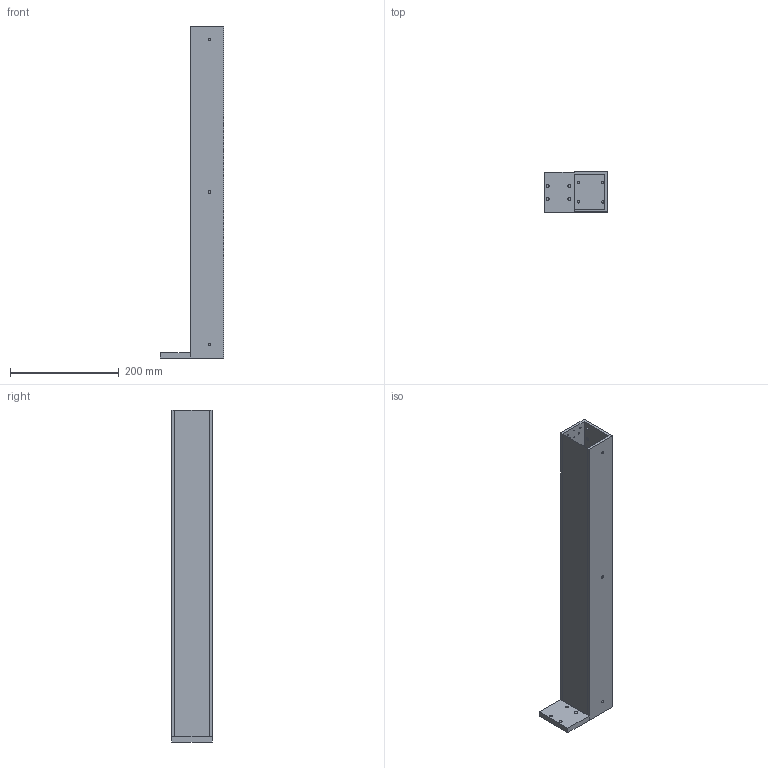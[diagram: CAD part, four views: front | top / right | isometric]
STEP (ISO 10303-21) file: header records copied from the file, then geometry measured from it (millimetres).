
FILE_DESCRIPTION(('TFLEX Exchange Step'),'2;1');
FILE_NAME('X2\041A043E043B043E043D043D0430\X0\1.stp', '2026-07-16T12:16:06+03:00',('KUser'),('Unknown organisation'),'TFLEX Exchange 2024.6','T-FLEX CAD','Unknown authorisation');
FILE_SCHEMA( ('AP242_MANAGED_MODEL_BASED_3D_ENGINEERING_MIM_LF {1 0 10303 442 1 1 4 }') );
Length unit declared in the file: millimetre
Products named in the file (102): 3D Узел_1; 3D Узел_2; Линейный массив_1(#1,+,+); Линейный массив_1(#2,+,+); Линейный массив_1(#1,0,+); Линейный массив_1(#2,0,+); Линейный массив_1(#1,1,+); Линейный массив_1(#2,1,+); Линейный массив_1(#1,2,+); Линейный массив_1(#2,2,+); Линейный массив_1(#1,3,+); Линейный массив_1(#2,3,+); Линейный массив_1(#1,4,+); Линейный массив_1(#2,4,+); Линейный массив_1(#1,5,+); Линейный массив_1(#2,5,+); Линейный массив_1(#1,6,+); Линейный массив_1(#2,6,+); Линейный массив_1(#1,7,+); Линейный массив_1(#2,7,+); Линейный массив_1(#1,8,+); Линейный массив_1(#2,8,+); Линейный массив_1(#1,9,+); Линейный массив_1(#2,9,+); Линейный массив_1(#1,10,+); Линейный массив_1(#2,10,+); Линейный массив_1(#1,11,+); Линейный массив_1(#2,11,+); Линейный массив_1(#1,12,+); Линейный массив_1(#2,12,+); Линейный массив_1(#1,13,+); Линейный массив_1(#2,13,+); 3D Узел_3; Линейный массив_2(#1,+,+); Линейный массив_2(#1,0,+); Линейный массив_2(#1,1,+); Линейный массив_2(#1,2,+); Линейный массив_2(#1,3,+); Линейный массив_2(#1,4,+); Линейный массив_2(#1,5,+)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
Assembly tree (101 placements, depth 3):
  Колонна1
    0
      3D Узел_1
      3D Узел_2
      Линейный массив_1(#1,+,+)
      Линейный массив_1(#2,+,+)
      Линейный массив_1(#1,0,+)
      Линейный массив_1(#2,0,+)
      Линейный массив_1(#1,1,+)
      Линейный массив_1(#2,1,+)
      Линейный массив_1(#1,2,+)
      Линейный массив_1(#2,2,+)
      Линейный массив_1(#1,3,+)
      Линейный массив_1(#2,3,+)
      Линейный массив_1(#1,4,+)
      Линейный массив_1(#2,4,+)
      Линейный массив_1(#1,5,+)
      Линейный массив_1(#2,5,+)
      Линейный массив_1(#1,6,+)
      Линейный массив_1(#2,6,+)
      Линейный массив_1(#1,7,+)
      Линейный массив_1(#2,7,+)
      Линейный массив_1(#1,8,+)
      Линейный массив_1(#2,8,+)
      Линейный массив_1(#1,9,+)
      Линейный массив_1(#2,9,+)
      Линейный массив_1(#1,10,+)
      Линейный массив_1(#2,10,+)
      Линейный массив_1(#1,11,+)
      Линейный массив_1(#2,11,+)
      Линейный массив_1(#1,12,+)
      Линейный массив_1(#2,12,+)
      Линейный массив_1(#1,13,+)
      Линейный массив_1(#2,13,+)
      3D Узел_3
      Линейный массив_2(#1,+,+)
      Линейный массив_2(#1,0,+)
      Линейный массив_2(#1,1,+)
      Линейный массив_2(#1,2,+)
      Линейный массив_2(#1,3,+)
      Линейный массив_2(#1,4,+)
      Линейный массив_2(#1,5,+)
      Линейный массив_2(#1,6,+)
      Линейный массив_2(#1,7,+)
      Линейный массив_2(#1,8,+)
      Линейный массив_2(#1,9,+)
      Линейный массив_2(#1,10,+)
      Линейный массив_2(#1,11,+)
      Линейный массив_2(#1,12,+)
      Линейный массив_2(#1,13,+)
      Линейный массив_2(#1,14,+)
      Линейный массив_2(#1,15,+)
      Линейный массив_2(#1,16,+)
      Линейный массив_2(#1,17,+)
      Линейный массив_2(#1,18,+)
      Линейный массив_2(#1,19,+)
      Линейный массив_2(#1,20,+)
      Линейный массив_2(#1,21,+)
      Линейный массив_2(#1,22,+)
      Линейный массив_2(#1,23,+)
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Bounding box: 116 x 74 x 610 mm (x, y, z)
Volume: 638932.6 mm3; surface area: 297518.7 mm2
Topology: 1 solids, 12 shells, 128 faces, 365 edges, 350 vertices
Faces by surface type: bspline 128
Entity records: 13093 total; most frequent: CARTESIAN_POINT 6991, ORIENTED_EDGE 710, DIRECTION 410, EDGE_CURVE 365, EDGE_LOOP 322, FACE_BOUND 322, VERTEX_POINT 250, PROPERTY_DEFINITION 214
